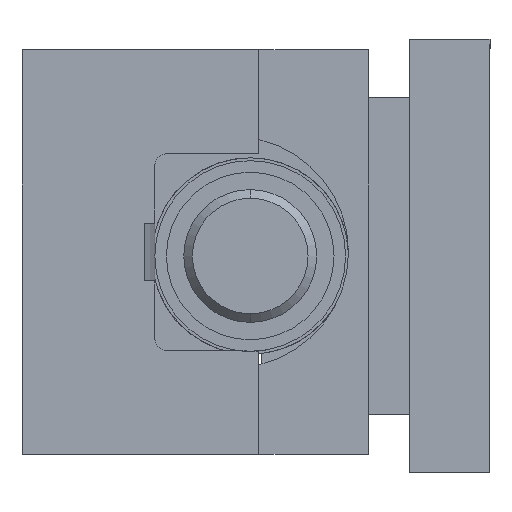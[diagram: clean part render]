
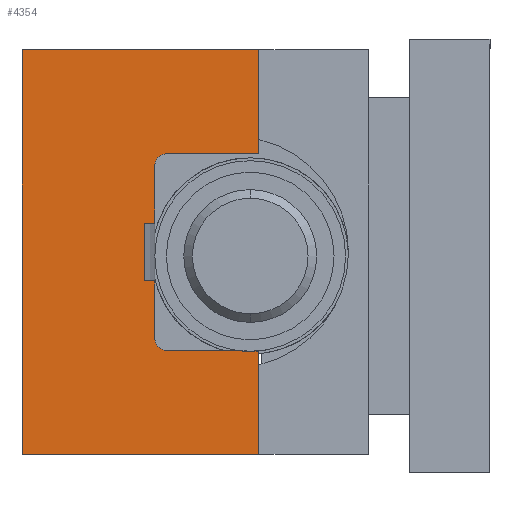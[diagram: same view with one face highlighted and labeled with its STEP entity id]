
A CAD part, left-side view. The second image highlights one B-rep face of the part: STEP entity #4354.
In plain terms, the highlighted planar face has unit normal (-1, 0, 0).
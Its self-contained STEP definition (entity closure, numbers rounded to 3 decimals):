
#211 = LINE ( 'NONE', #7030, #15828 ) ;
#337 = DIRECTION ( 'NONE',  ( 0., 0., 1. ) ) ;
#427 = VERTEX_POINT ( 'NONE', #8088 ) ;
#439 = ORIENTED_EDGE ( 'NONE', *, *, #16318, .T. ) ;
#455 = EDGE_CURVE ( 'NONE', #12921, #12084, #18012, .T. ) ;
#550 = ORIENTED_EDGE ( 'NONE', *, *, #17953, .T. ) ;
#983 = DIRECTION ( 'NONE',  ( 0., 1., 0. ) ) ;
#1412 = VERTEX_POINT ( 'NONE', #10229 ) ;
#1531 = LINE ( 'NONE', #17855, #15238 ) ;
#2095 = ORIENTED_EDGE ( 'NONE', *, *, #6740, .F. ) ;
#2140 = DIRECTION ( 'NONE',  ( 0., 0., 1. ) ) ;
#2169 = CARTESIAN_POINT ( 'NONE',  ( -9.5, 20.5, -35. ) ) ;
#2224 = ORIENTED_EDGE ( 'NONE', *, *, #10275, .T. ) ;
#2259 = CARTESIAN_POINT ( 'NONE',  ( -9.5, -20.5, -35. ) ) ;
#2439 = CARTESIAN_POINT ( 'NONE',  ( -9.5, -0.625, -5. ) ) ;
#2630 = VECTOR ( 'NONE', #20896, 1000. ) ;
#3309 = ORIENTED_EDGE ( 'NONE', *, *, #10062, .T. ) ;
#3461 = CARTESIAN_POINT ( 'NONE',  ( -9.5, -4.5, 15. ) ) ;
#3848 = DIRECTION ( 'NONE',  ( 0., 1., 0. ) ) ;
#4077 = CARTESIAN_POINT ( 'NONE',  ( -9.5, 0., 0. ) ) ;
#4354 = ADVANCED_FACE ( 'NONE', ( #15416 ), #20260, .T. ) ;
#4410 = CARTESIAN_POINT ( 'NONE',  ( -9.5, -4.5, -15. ) ) ;
#4436 = VERTEX_POINT ( 'NONE', #6037 ) ;
#4718 = EDGE_CURVE ( 'NONE', #5747, #4891, #7373, .T. ) ;
#4891 = VERTEX_POINT ( 'NONE', #2169 ) ;
#5260 = LINE ( 'NONE', #10128, #12881 ) ;
#5480 = DIRECTION ( 'NONE',  ( 0., 0., 1. ) ) ;
#5658 = EDGE_CURVE ( 'NONE', #20878, #427, #16324, .T. ) ;
#5747 = VERTEX_POINT ( 'NONE', #2259 ) ;
#5938 = VECTOR ( 'NONE', #337, 1000. ) ;
#6007 = CARTESIAN_POINT ( 'NONE',  ( -9.5, 20.5, 35. ) ) ;
#6037 = CARTESIAN_POINT ( 'NONE',  ( -9.5, -2.5, 15. ) ) ;
#6486 = VERTEX_POINT ( 'NONE', #13470 ) ;
#6740 = EDGE_CURVE ( 'NONE', #18115, #12084, #8915, .T. ) ;
#6792 = CARTESIAN_POINT ( 'NONE',  ( -9.5, -0.625, -5. ) ) ;
#6986 = ORIENTED_EDGE ( 'NONE', *, *, #14490, .F. ) ;
#7006 = LINE ( 'NONE', #6792, #12637 ) ;
#7030 = CARTESIAN_POINT ( 'NONE',  ( -9.5, -2.5, -17. ) ) ;
#7051 = CIRCLE ( 'NONE', #10158, 2. ) ;
#7373 = LINE ( 'NONE', #9104, #11955 ) ;
#7643 = VERTEX_POINT ( 'NONE', #13938 ) ;
#7921 = EDGE_CURVE ( 'NONE', #16928, #8068, #5260, .T. ) ;
#8068 = VERTEX_POINT ( 'NONE', #2439 ) ;
#8088 = CARTESIAN_POINT ( 'NONE',  ( -9.5, -0.625, 5. ) ) ;
#8139 = DIRECTION ( 'NONE',  ( 0., 0., 1. ) ) ;
#8204 = AXIS2_PLACEMENT_3D ( 'NONE', #4410, #14148, #9379 ) ;
#8305 = DIRECTION ( 'NONE',  ( 0., -1., 0. ) ) ;
#8721 = CARTESIAN_POINT ( 'NONE',  ( -9.5, -2.5, 17. ) ) ;
#8834 = LINE ( 'NONE', #8721, #21327 ) ;
#8905 = EDGE_CURVE ( 'NONE', #1412, #5747, #11276, .T. ) ;
#8915 = LINE ( 'NONE', #17752, #2630 ) ;
#9056 = CARTESIAN_POINT ( 'NONE',  ( -9.5, -20.5, 17. ) ) ;
#9104 = CARTESIAN_POINT ( 'NONE',  ( -9.5, -20.5, -35. ) ) ;
#9160 = ORIENTED_EDGE ( 'NONE', *, *, #4718, .F. ) ;
#9319 = DIRECTION ( 'NONE',  ( 0., 0., -1. ) ) ;
#9379 = DIRECTION ( 'NONE',  ( 0., 0., 1. ) ) ;
#9744 = VECTOR ( 'NONE', #8305, 1000. ) ;
#10061 = DIRECTION ( 'NONE',  ( 1., 0., 0. ) ) ;
#10062 = EDGE_CURVE ( 'NONE', #6486, #16928, #8834, .T. ) ;
#10128 = CARTESIAN_POINT ( 'NONE',  ( -9.5, -2.5, -5. ) ) ;
#10158 = AXIS2_PLACEMENT_3D ( 'NONE', #3461, #10061, #16651 ) ;
#10229 = CARTESIAN_POINT ( 'NONE',  ( -9.5, -20.5, -17. ) ) ;
#10275 = EDGE_CURVE ( 'NONE', #7643, #6486, #19907, .T. ) ;
#10328 = ORIENTED_EDGE ( 'NONE', *, *, #13334, .F. ) ;
#10615 = AXIS2_PLACEMENT_3D ( 'NONE', #4077, #13600, #5480 ) ;
#11276 = LINE ( 'NONE', #14598, #15864 ) ;
#11318 = CARTESIAN_POINT ( 'NONE',  ( -9.5, -4.5, 17. ) ) ;
#11436 = LINE ( 'NONE', #19621, #20802 ) ;
#11526 = EDGE_CURVE ( 'NONE', #1412, #7643, #211, .T. ) ;
#11955 = VECTOR ( 'NONE', #983, 1000. ) ;
#12084 = VERTEX_POINT ( 'NONE', #9056 ) ;
#12274 = ORIENTED_EDGE ( 'NONE', *, *, #455, .T. ) ;
#12316 = DIRECTION ( 'NONE',  ( 0., 0., 1. ) ) ;
#12637 = VECTOR ( 'NONE', #2140, 1000. ) ;
#12881 = VECTOR ( 'NONE', #3848, 1000. ) ;
#12921 = VERTEX_POINT ( 'NONE', #11318 ) ;
#13074 = ORIENTED_EDGE ( 'NONE', *, *, #5658, .F. ) ;
#13096 = CARTESIAN_POINT ( 'NONE',  ( -9.5, -2.5, 5. ) ) ;
#13153 = CARTESIAN_POINT ( 'NONE',  ( -9.5, -2.5, -5. ) ) ;
#13334 = EDGE_CURVE ( 'NONE', #4891, #16024, #1531, .T. ) ;
#13470 = CARTESIAN_POINT ( 'NONE',  ( -9.5, -2.5, -15. ) ) ;
#13534 = CARTESIAN_POINT ( 'NONE',  ( -9.5, -2.5, 5. ) ) ;
#13600 = DIRECTION ( 'NONE',  ( -1., 0., 0. ) ) ;
#13636 = DIRECTION ( 'NONE',  ( 0., 1., 0. ) ) ;
#13938 = CARTESIAN_POINT ( 'NONE',  ( -9.5, -4.5, -17. ) ) ;
#14148 = DIRECTION ( 'NONE',  ( 1., 0., 0. ) ) ;
#14490 = EDGE_CURVE ( 'NONE', #16024, #18115, #11436, .T. ) ;
#14598 = CARTESIAN_POINT ( 'NONE',  ( -9.5, -20.5, 35. ) ) ;
#14760 = DIRECTION ( 'NONE',  ( 0., -1., 0. ) ) ;
#15238 = VECTOR ( 'NONE', #8139, 1000. ) ;
#15416 = FACE_OUTER_BOUND ( 'NONE', #20220, .T. ) ;
#15828 = VECTOR ( 'NONE', #13636, 1000. ) ;
#15864 = VECTOR ( 'NONE', #9319, 1000. ) ;
#16024 = VERTEX_POINT ( 'NONE', #6007 ) ;
#16230 = ORIENTED_EDGE ( 'NONE', *, *, #7921, .T. ) ;
#16318 = EDGE_CURVE ( 'NONE', #20878, #4436, #20101, .T. ) ;
#16324 = LINE ( 'NONE', #13096, #19496 ) ;
#16409 = ORIENTED_EDGE ( 'NONE', *, *, #8905, .F. ) ;
#16651 = DIRECTION ( 'NONE',  ( 0., 0., 1. ) ) ;
#16754 = CARTESIAN_POINT ( 'NONE',  ( -9.5, -20.5, 35. ) ) ;
#16928 = VERTEX_POINT ( 'NONE', #13153 ) ;
#17206 = ORIENTED_EDGE ( 'NONE', *, *, #11526, .T. ) ;
#17752 = CARTESIAN_POINT ( 'NONE',  ( -9.5, -20.5, 35. ) ) ;
#17855 = CARTESIAN_POINT ( 'NONE',  ( -9.5, 20.5, 35. ) ) ;
#17953 = EDGE_CURVE ( 'NONE', #4436, #12921, #7051, .T. ) ;
#18012 = LINE ( 'NONE', #19846, #9744 ) ;
#18115 = VERTEX_POINT ( 'NONE', #16754 ) ;
#18998 = EDGE_CURVE ( 'NONE', #8068, #427, #7006, .T. ) ;
#19496 = VECTOR ( 'NONE', #19668, 1000. ) ;
#19621 = CARTESIAN_POINT ( 'NONE',  ( -9.5, -20.5, 35. ) ) ;
#19668 = DIRECTION ( 'NONE',  ( 0., 1., 0. ) ) ;
#19846 = CARTESIAN_POINT ( 'NONE',  ( -9.5, -2.5, 17. ) ) ;
#19907 = CIRCLE ( 'NONE', #8204, 2. ) ;
#20101 = LINE ( 'NONE', #20424, #5938 ) ;
#20220 = EDGE_LOOP ( 'NONE', ( #16230, #20787, #13074, #439, #550, #12274, #2095, #6986, #10328, #9160, #16409, #17206, #2224, #3309 ) ) ;
#20260 = PLANE ( 'NONE',  #10615 ) ;
#20424 = CARTESIAN_POINT ( 'NONE',  ( -9.5, -2.5, 17. ) ) ;
#20787 = ORIENTED_EDGE ( 'NONE', *, *, #18998, .T. ) ;
#20802 = VECTOR ( 'NONE', #14760, 1000. ) ;
#20878 = VERTEX_POINT ( 'NONE', #13534 ) ;
#20896 = DIRECTION ( 'NONE',  ( 0., 0., -1. ) ) ;
#21327 = VECTOR ( 'NONE', #12316, 1000. ) ;
